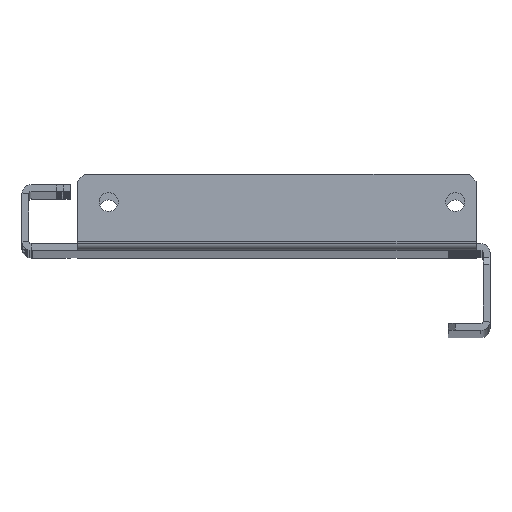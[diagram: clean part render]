
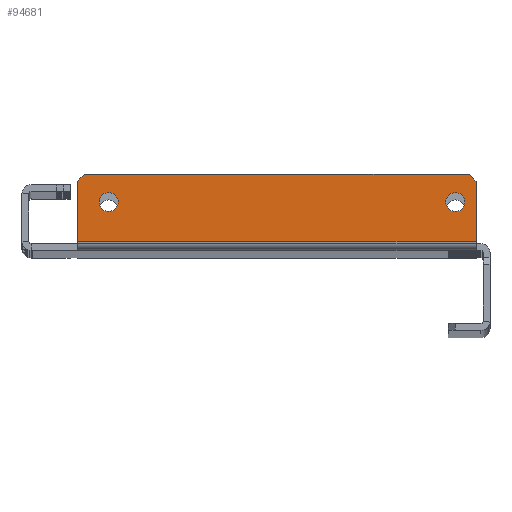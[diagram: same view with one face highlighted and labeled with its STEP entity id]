
A CAD part, top view. The second image highlights one B-rep face of the part: STEP entity #94681.
In plain terms, the highlighted planar face has unit normal (0, 0, 1).
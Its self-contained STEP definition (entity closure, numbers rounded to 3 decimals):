
#69991=CARTESIAN_POINT(' ',(131.,1.,1240.));
#69992=VERTEX_POINT(' ',#69991);
#70006=CARTESIAN_POINT(' ',(131.,1.,1240.));
#70011=DIRECTION(' ',(0.,-1.,0.));
#70016=VECTOR(' ',#70011,1.);
#70021=LINE('',#70006,#70016);
#70026=CARTESIAN_POINT(' ',(131.,-16.4,1240.));
#70027=VERTEX_POINT(' ',#70026);
#70031=EDGE_CURVE(' ',#69992,#70027,#70021,.T.);
#74291=CARTESIAN_POINT(' ',(16.,-16.4,1240.));
#74296=DIRECTION(' ',(1.,0.,0.));
#74301=VECTOR(' ',#74296,1.);
#74306=LINE('',#74291,#74301);
#74311=CARTESIAN_POINT(' ',(16.,-16.4,1240.));
#74312=VERTEX_POINT(' ',#74311);
#74316=EDGE_CURVE(' ',#74312,#70027,#74306,.T.);
#74416=CARTESIAN_POINT(' ',(16.,1.,1240.));
#74421=DIRECTION(' ',(0.,-1.,0.));
#74426=VECTOR(' ',#74421,1.);
#74431=LINE('',#74416,#74426);
#74436=CARTESIAN_POINT(' ',(16.,1.,1240.));
#74437=VERTEX_POINT(' ',#74436);
#74441=EDGE_CURVE(' ',#74437,#74312,#74431,.T.);
#94291=CARTESIAN_POINT(' ',(131.,1.,1240.));
#94296=DIRECTION(' ',(-0.707,0.707,0.));
#94301=VECTOR(' ',#94296,1.);
#94306=LINE('',#94291,#94301);
#94311=CARTESIAN_POINT(' ',(129.,3.,1240.));
#94312=VERTEX_POINT(' ',#94311);
#94316=EDGE_CURVE(' ',#69992,#94312,#94306,.T.);
#94381=DIRECTION(' ',(0.,0.,1.));
#94386=CARTESIAN_POINT(' ',(16.,-16.4,1240.));
#94391=DIRECTION(' ',(1.,0.,-0.));
#94396=AXIS2_PLACEMENT_3D(' ',#94386,#94381,#94391);
#94401=PLANE('NONE',#94396);
#94406=CARTESIAN_POINT(' ',(129.,3.,1240.));
#94411=DIRECTION(' ',(-1.,0.,0.));
#94416=VECTOR(' ',#94411,1.);
#94421=LINE('',#94406,#94416);
#94426=CARTESIAN_POINT(' ',(18.,3.,1240.));
#94427=VERTEX_POINT(' ',#94426);
#94431=EDGE_CURVE(' ',#94312,#94427,#94421,.T.);
#94436=ORIENTED_EDGE(' ',*,*,#94431,.T.);
#94441=CARTESIAN_POINT(' ',(18.,3.,1240.));
#94446=DIRECTION(' ',(-0.707,-0.707,0.));
#94451=VECTOR(' ',#94446,1.);
#94456=LINE('',#94441,#94451);
#94461=EDGE_CURVE(' ',#94427,#74437,#94456,.T.);
#94466=ORIENTED_EDGE(' ',*,*,#94461,.T.);
#94471=ORIENTED_EDGE(' ',*,*,#74441,.T.);
#94476=ORIENTED_EDGE(' ',*,*,#74316,.T.);
#94481=ORIENTED_EDGE(' ',*,*,#70031,.F.);
#94486=ORIENTED_EDGE(' ',*,*,#94316,.T.);
#94491=EDGE_LOOP(' ',(#94436,#94466,#94471,#94476,#94481,#94486));
#94496=FACE_OUTER_BOUND(' ',#94491,.T.);
#94501=CARTESIAN_POINT(' ',(25.,-5.,1240.));
#94506=DIRECTION(' ',(-0.,0.,-1.));
#94511=DIRECTION(' ',(0.,1.,0.));
#94516=AXIS2_PLACEMENT_3D(' ',#94501,#94506,#94511);
#94521=CIRCLE('',#94516,2.75);
#94526=CARTESIAN_POINT(' ',(25.,-2.25,1240.));
#94527=VERTEX_POINT(' ',#94526);
#94531=CARTESIAN_POINT(' ',(25.,-7.75,1240.));
#94532=VERTEX_POINT(' ',#94531);
#94536=EDGE_CURVE(' ',#94527,#94532,#94521,.T.);
#94541=ORIENTED_EDGE(' ',*,*,#94536,.T.);
#94546=CARTESIAN_POINT(' ',(25.,-5.,1240.));
#94551=DIRECTION(' ',(0.,0.,-1.));
#94556=DIRECTION(' ',(0.,-1.,0.));
#94561=AXIS2_PLACEMENT_3D(' ',#94546,#94551,#94556);
#94566=CIRCLE('',#94561,2.75);
#94571=EDGE_CURVE(' ',#94532,#94527,#94566,.T.);
#94576=ORIENTED_EDGE(' ',*,*,#94571,.T.);
#94581=EDGE_LOOP(' ',(#94541,#94576));
#94586=FACE_BOUND(' ',#94581,.T.);
#94591=CARTESIAN_POINT(' ',(125.,-5.,1240.));
#94596=DIRECTION(' ',(-0.,0.,-1.));
#94601=DIRECTION(' ',(0.,1.,0.));
#94606=AXIS2_PLACEMENT_3D(' ',#94591,#94596,#94601);
#94611=CIRCLE('',#94606,2.75);
#94616=CARTESIAN_POINT(' ',(125.,-2.25,1240.));
#94617=VERTEX_POINT(' ',#94616);
#94621=CARTESIAN_POINT(' ',(125.,-7.75,1240.));
#94622=VERTEX_POINT(' ',#94621);
#94626=EDGE_CURVE(' ',#94617,#94622,#94611,.T.);
#94631=ORIENTED_EDGE(' ',*,*,#94626,.T.);
#94636=CARTESIAN_POINT(' ',(125.,-5.,1240.));
#94641=DIRECTION(' ',(0.,0.,-1.));
#94646=DIRECTION(' ',(0.,-1.,0.));
#94651=AXIS2_PLACEMENT_3D(' ',#94636,#94641,#94646);
#94656=CIRCLE('',#94651,2.75);
#94661=EDGE_CURVE(' ',#94622,#94617,#94656,.T.);
#94666=ORIENTED_EDGE(' ',*,*,#94661,.T.);
#94671=EDGE_LOOP(' ',(#94631,#94666));
#94676=FACE_BOUND(' ',#94671,.T.);
#94681=ADVANCED_FACE('NONE',(#94496,#94586,#94676),#94401,.T.);
